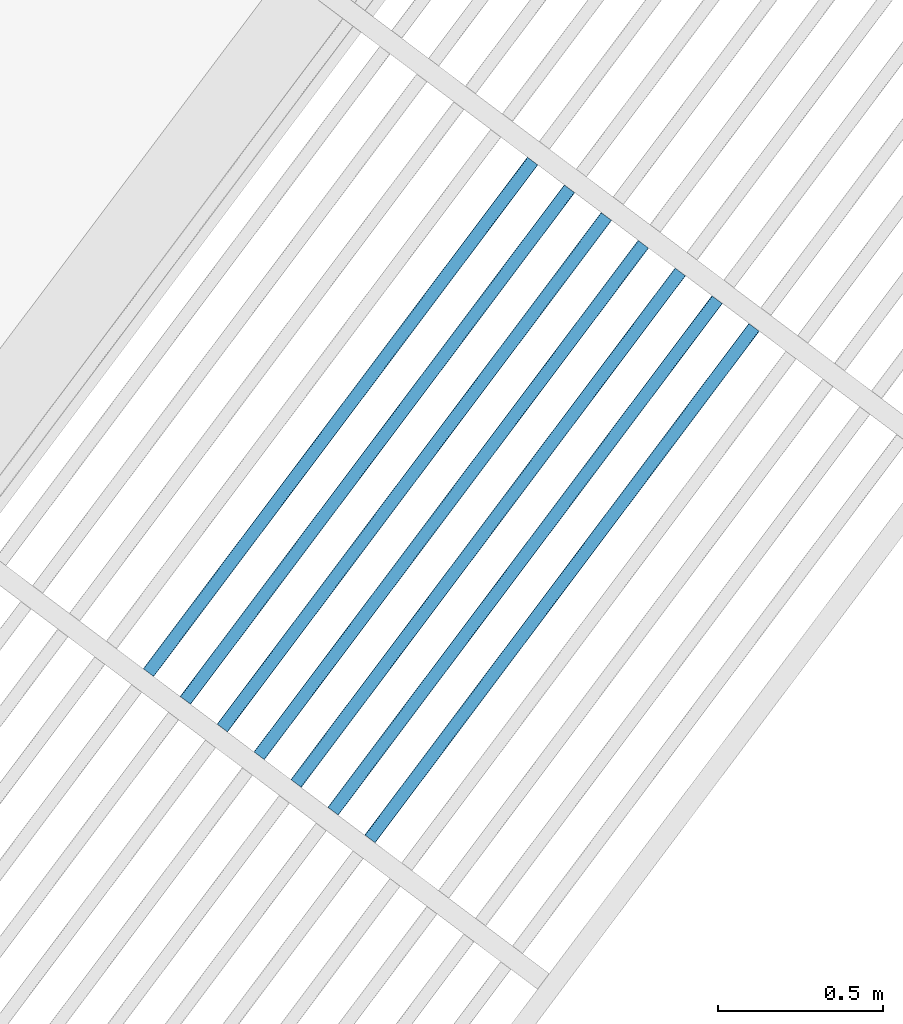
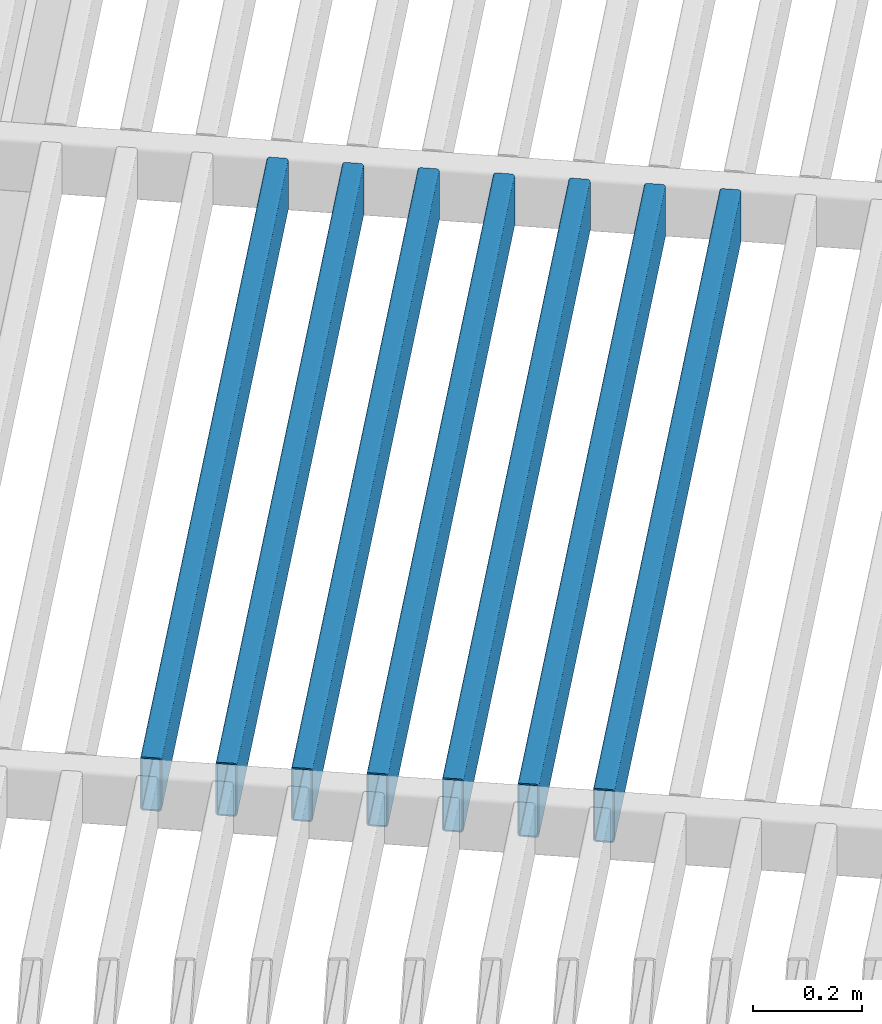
# One storey, part 66 of 95: 7 beams.
"""IFC2X3 building model written with IfcOpenShell, lengths in metres."""

from ifc_helpers import new_model, entity, si_unit, converted_unit, derived_unit, direction, frame, frame_2d, origin, place, context, subcontext, project, spatial, polyline, circle_curve, parameter, trimmed, segment, composite_curve, outline, extrude, material, type_object, element, save


model = new_model("IFC2X3")

# Units and contexts
model_context = context("Model", 3, precision=1e-05, world=origin(), true_north=direction((6.123031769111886e-17, 1.0)))
body_context = subcontext(model_context, "Body", "Model", "MODEL_VIEW")
ifc_project = project(units=[si_unit("LENGTHUNIT", "METRE"), si_unit("AREAUNIT", "SQUARE_METRE"), si_unit("VOLUMEUNIT", "CUBIC_METRE"), converted_unit("PLANEANGLEUNIT", "DEGREE", entity("IfcRatioMeasure", 0.017453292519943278), si_unit("PLANEANGLEUNIT", "RADIAN"), dimensions=[0, 0, 0, 0, 0, 0, 0]), si_unit("MASSUNIT", "GRAM", prefix="KILO"), derived_unit("MASSDENSITYUNIT", [(si_unit("MASSUNIT", "GRAM", prefix="KILO"), 1), (si_unit("LENGTHUNIT", "METRE"), -3)]), derived_unit("IONCONCENTRATIONUNIT", [(si_unit("MASSUNIT", "GRAM", prefix="KILO"), 1), (si_unit("LENGTHUNIT", "METRE"), -3)]), derived_unit("MOMENTOFINERTIAUNIT", [(si_unit("LENGTHUNIT", "METRE"), 4)]), si_unit("TIMEUNIT", "SECOND"), si_unit("FREQUENCYUNIT", "HERTZ"), si_unit("THERMODYNAMICTEMPERATUREUNIT", "DEGREE_CELSIUS"), derived_unit("THERMALTRANSMITTANCEUNIT", [(si_unit("MASSUNIT", "GRAM", prefix="KILO"), 1), (si_unit("THERMODYNAMICTEMPERATUREUNIT", "KELVIN"), -1), (si_unit("TIMEUNIT", "SECOND"), -3)]), derived_unit("THERMALCONDUCTANCEUNIT", [(si_unit("MASSUNIT", "GRAM", prefix="KILO"), 1), (si_unit("THERMODYNAMICTEMPERATUREUNIT", "KELVIN"), -1), (si_unit("TIMEUNIT", "SECOND"), -3), (si_unit("LENGTHUNIT", "METRE"), 1)]), derived_unit("VOLUMETRICFLOWRATEUNIT", [(si_unit("LENGTHUNIT", "METRE"), 3), (si_unit("TIMEUNIT", "SECOND"), -1)]), derived_unit("MASSFLOWRATEUNIT", [(si_unit("MASSUNIT", "GRAM", prefix="KILO"), 1), (si_unit("TIMEUNIT", "SECOND"), -1)]), derived_unit("ROTATIONALFREQUENCYUNIT", [(si_unit("TIMEUNIT", "SECOND"), -1)]), si_unit("ELECTRICCURRENTUNIT", "AMPERE"), si_unit("ELECTRICVOLTAGEUNIT", "VOLT"), si_unit("POWERUNIT", "WATT"), si_unit("FORCEUNIT", "NEWTON", prefix="KILO"), si_unit("ILLUMINANCEUNIT", "LUX"), si_unit("LUMINOUSFLUXUNIT", "LUMEN"), si_unit("LUMINOUSINTENSITYUNIT", "CANDELA"), derived_unit("USERDEFINED", [(si_unit("MASSUNIT", "GRAM", prefix="KILO"), -1), (si_unit("LENGTHUNIT", "METRE"), -2), (si_unit("TIMEUNIT", "SECOND"), 3), (si_unit("LUMINOUSFLUXUNIT", "LUMEN"), 1)]), derived_unit("USERDEFINED", [(si_unit("MASSUNIT", "GRAM", prefix="KILO"), 1), (si_unit("TIMEUNIT", "SECOND"), -3), (si_unit("LENGTHUNIT", "METRE"), 3), (si_unit("ELECTRICCURRENTUNIT", "AMPERE"), -2)]), derived_unit("SOUNDPOWERUNIT", [(si_unit("MASSUNIT", "GRAM", prefix="KILO"), 1), (si_unit("TIMEUNIT", "SECOND"), -3), (si_unit("LENGTHUNIT", "METRE"), 2)]), derived_unit("SOUNDPRESSUREUNIT", [(si_unit("MASSUNIT", "GRAM", prefix="KILO"), 1), (si_unit("LENGTHUNIT", "METRE"), -1), (si_unit("TIMEUNIT", "SECOND"), -2)]), derived_unit("LINEARVELOCITYUNIT", [(si_unit("LENGTHUNIT", "METRE"), 1), (si_unit("TIMEUNIT", "SECOND"), -1)]), si_unit("PRESSUREUNIT", "PASCAL"), derived_unit("USERDEFINED", [(si_unit("MASSUNIT", "GRAM", prefix="KILO"), 1), (si_unit("LENGTHUNIT", "METRE"), -2), (si_unit("TIMEUNIT", "SECOND"), -2)]), derived_unit("LINEARFORCEUNIT", [(si_unit("MASSUNIT", "GRAM", prefix="KILO"), 1), (si_unit("TIMEUNIT", "SECOND"), -2)]), derived_unit("PLANARFORCEUNIT", [(si_unit("MASSUNIT", "GRAM", prefix="KILO"), 1), (si_unit("LENGTHUNIT", "METRE"), -1), (si_unit("TIMEUNIT", "SECOND"), -2)]), derived_unit("SPECIFICHEATCAPACITYUNIT", [(si_unit("THERMODYNAMICTEMPERATUREUNIT", "KELVIN"), -1), (si_unit("LENGTHUNIT", "METRE"), 2), (si_unit("TIMEUNIT", "SECOND"), -2)]), derived_unit("HEATINGVALUEUNIT", [(si_unit("LENGTHUNIT", "METRE"), 2), (si_unit("TIMEUNIT", "SECOND"), -2)]), derived_unit("VAPORPERMEABILITYUNIT", [(si_unit("LENGTHUNIT", "METRE"), -1), (si_unit("TIMEUNIT", "SECOND"), 1)]), derived_unit("DYNAMICVISCOSITYUNIT", [(si_unit("MASSUNIT", "GRAM", prefix="KILO"), 1), (si_unit("TIMEUNIT", "SECOND"), -1), (si_unit("LENGTHUNIT", "METRE"), -1)]), derived_unit("THERMALEXPANSIONCOEFFICIENTUNIT", [(si_unit("THERMODYNAMICTEMPERATUREUNIT", "KELVIN"), -1)]), derived_unit("MODULUSOFELASTICITYUNIT", [(si_unit("MASSUNIT", "GRAM", prefix="KILO"), 1), (si_unit("LENGTHUNIT", "METRE"), -1), (si_unit("TIMEUNIT", "SECOND"), -2)]), derived_unit("ISOTHERMALMOISTURECAPACITYUNIT", [(si_unit("LENGTHUNIT", "METRE"), 3), (si_unit("MASSUNIT", "GRAM", prefix="KILO"), -1)]), derived_unit("MOISTUREDIFFUSIVITYUNIT", [(si_unit("TIMEUNIT", "SECOND"), -1), (si_unit("LENGTHUNIT", "METRE"), 2)])], contexts=[model_context])

# Site, building, storey
site_placement = place(None, origin())
site = spatial("IfcSite", under=ifc_project, at=site_placement, Name="Default", CompositionType="ELEMENT")
building_placement = place(site_placement, frame((0.0, 0.0, 235.0), z_axis=(0.0, 0.0, 1.0), x_axis=(-0.7996477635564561, 0.6004693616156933, 0.0)))
building = spatial("IfcBuilding", under=site, at=building_placement, CompositionType="ELEMENT")
storey_placement = place(building_placement, frame((0.0, 0.0, 3.400000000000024)))
storey = spatial("IfcBuildingStorey", under=building, at=storey_placement, Name="PC- Coberta STR", CompositionType="ELEMENT", Elevation=3.400000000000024)

# Beams
ifc_material = material(Name="_Acer- STR")
beam_type = type_object("IfcBeamType", Name="STR- V- Acer- RHS- Rectangular- T1:120x40RHS -", PredefinedType="NOTDEFINED")
beam_1_placement = place(storey_placement, frame((40.37355240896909, -32.38519175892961, 0.4984047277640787), z_axis=(0.0, 0.0, 1.0), x_axis=(0.0, -1.0, 0.0)))
element("IfcBeam", 1, at=beam_1_placement, inside=storey, type_object=beam_type, material=ifc_material, Name="STR- V- Acer- RHS- Rectangular- T1:120x40RHS -", ObjectType="STR- V- Acer- RHS- Rectangular- T1:120x40RHS -", context=body_context, shape_type="SweptSolid", body=[
    extrude(outline(composite_curve([segment(trimmed(circle_curve(frame_2d((-0.01399999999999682, -0.053999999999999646), x_axis=(1.0, 0.0)), 0.006), [parameter(180.0000000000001)], [parameter(269.99999999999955)], True, "PARAMETER"), True, "CONTINUOUS"), segment(polyline([(-0.01399999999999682, -0.0599999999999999), (0.013999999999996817, -0.0599999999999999)]), True, "CONTINUOUS"), segment(trimmed(circle_curve(frame_2d((0.014000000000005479, -0.053999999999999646), x_axis=(1.0, 0.0)), 0.006), [parameter(269.99999999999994)], [parameter(1.0177774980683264e-13)], True, "PARAMETER"), True, "CONTINUOUS"), segment(polyline([(0.020000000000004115, -0.053999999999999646), (0.020000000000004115, 0.05400000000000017)]), True, "CONTINUOUS"), segment(trimmed(circle_curve(frame_2d((0.014000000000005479, 0.05400000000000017), x_axis=(1.0, 0.0)), 0.006), [parameter(359.9999999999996)], [parameter(89.99999999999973)], True, "PARAMETER"), True, "CONTINUOUS"), segment(polyline([(0.013999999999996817, 0.059999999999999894), (-0.01399999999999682, 0.059999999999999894)]), True, "CONTINUOUS"), segment(trimmed(circle_curve(frame_2d((-0.01399999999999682, 0.05400000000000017), x_axis=(1.0, 0.0)), 0.006), [parameter(90.00000000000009)], [parameter(180.00000000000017)], True, "PARAMETER"), True, "CONTINUOUS"), segment(polyline([(-0.019999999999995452, 0.05400000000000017), (-0.019999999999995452, -0.05400000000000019)]), True, "CONTINUOUS")], self_intersect=False), holes=[composite_curve([segment(polyline([(0.013999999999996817, -0.05700000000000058), (-0.01399999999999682, -0.05700000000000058)]), True, "CONTINUOUS"), segment(trimmed(circle_curve(frame_2d((-0.01399999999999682, -0.05400000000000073), x_axis=(1.0, 0.0)), 0.003), [parameter(179.99999999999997)], [parameter(269.9999999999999)], True, "PARAMETER"), False, "CONTINUOUS"), segment(polyline([(-0.016999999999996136, -0.05400000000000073), (-0.016999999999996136, 0.05399999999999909)]), True, "CONTINUOUS"), segment(trimmed(circle_curve(frame_2d((-0.01399999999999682, 0.05399999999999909), x_axis=(1.0, 0.0)), 0.003), [parameter(90.00000000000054)], [parameter(180.0000000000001)], True, "PARAMETER"), False, "CONTINUOUS"), segment(polyline([(-0.01399999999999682, 0.056999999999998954), (0.013999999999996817, 0.056999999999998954)]), True, "CONTINUOUS"), segment(trimmed(circle_curve(frame_2d((0.014000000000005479, 0.05399999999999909), x_axis=(1.0, 0.0)), 0.003), [parameter(0.0)], [parameter(90.00000000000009)], True, "PARAMETER"), False, "CONTINUOUS"), segment(polyline([(0.017000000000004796, 0.05399999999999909), (0.017000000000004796, -0.05400000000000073)]), True, "CONTINUOUS"), segment(trimmed(circle_curve(frame_2d((0.014000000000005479, -0.05400000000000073), x_axis=(1.0, 0.0)), 0.003), [parameter(270.00000000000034)], [parameter(3.053332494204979e-13)], True, "PARAMETER"), False, "CONTINUOUS")], self_intersect=False)]), frame((-1.9399999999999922, 0.02159527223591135, 0.06159527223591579), z_axis=(1.0, 0.0, 0.0), x_axis=(0.0, -1.0, 0.0)), (0.0, 0.0, 1.0), 1.9399999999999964),
])
beam_2_placement = place(storey_placement, frame((40.23355240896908, -32.38519175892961, 0.4984047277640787), z_axis=(0.0, 0.0, 1.0), x_axis=(0.0, -1.0, 0.0)))
element("IfcBeam", 2, at=beam_2_placement, inside=storey, type_object=beam_type, material=ifc_material, Name="STR- V- Acer- RHS- Rectangular- T1:120x40RHS -", ObjectType="STR- V- Acer- RHS- Rectangular- T1:120x40RHS -", context=body_context, shape_type="SweptSolid", body=[
    extrude(outline(composite_curve([segment(trimmed(circle_curve(frame_2d((-0.01400000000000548, -0.053999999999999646), x_axis=(1.0, 0.0)), 0.006), [parameter(180.0000000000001)], [parameter(269.99999999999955)], True, "PARAMETER"), True, "CONTINUOUS"), segment(polyline([(-0.01400000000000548, -0.0599999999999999), (0.013999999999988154, -0.0599999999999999)]), True, "CONTINUOUS"), segment(trimmed(circle_curve(frame_2d((0.013999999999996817, -0.053999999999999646), x_axis=(1.0, 0.0)), 0.006), [parameter(269.99999999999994)], [parameter(1.0177774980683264e-13)], True, "PARAMETER"), True, "CONTINUOUS"), segment(polyline([(0.019999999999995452, -0.053999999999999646), (0.019999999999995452, 0.05400000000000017)]), True, "CONTINUOUS"), segment(trimmed(circle_curve(frame_2d((0.013999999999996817, 0.05400000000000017), x_axis=(1.0, 0.0)), 0.006), [parameter(359.9999999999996)], [parameter(89.99999999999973)], True, "PARAMETER"), True, "CONTINUOUS"), segment(polyline([(0.013999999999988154, 0.059999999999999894), (-0.01400000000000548, 0.059999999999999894)]), True, "CONTINUOUS"), segment(trimmed(circle_curve(frame_2d((-0.01400000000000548, 0.05400000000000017), x_axis=(1.0, 0.0)), 0.006), [parameter(90.00000000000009)], [parameter(180.00000000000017)], True, "PARAMETER"), True, "CONTINUOUS"), segment(polyline([(-0.02000000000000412, 0.05400000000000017), (-0.02000000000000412, -0.05400000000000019)]), True, "CONTINUOUS")], self_intersect=False), holes=[composite_curve([segment(polyline([(0.013999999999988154, -0.05700000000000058), (-0.01400000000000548, -0.05700000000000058)]), True, "CONTINUOUS"), segment(trimmed(circle_curve(frame_2d((-0.01400000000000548, -0.05400000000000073), x_axis=(1.0, 0.0)), 0.003), [parameter(179.99999999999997)], [parameter(269.9999999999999)], True, "PARAMETER"), False, "CONTINUOUS"), segment(polyline([(-0.017000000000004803, -0.05400000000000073), (-0.017000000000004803, 0.05399999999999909)]), True, "CONTINUOUS"), segment(trimmed(circle_curve(frame_2d((-0.01400000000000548, 0.05399999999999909), x_axis=(1.0, 0.0)), 0.003), [parameter(90.00000000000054)], [parameter(180.0000000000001)], True, "PARAMETER"), False, "CONTINUOUS"), segment(polyline([(-0.01400000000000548, 0.056999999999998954), (0.013999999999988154, 0.056999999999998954)]), True, "CONTINUOUS"), segment(trimmed(circle_curve(frame_2d((0.013999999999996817, 0.05399999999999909), x_axis=(1.0, 0.0)), 0.003), [parameter(0.0)], [parameter(90.00000000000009)], True, "PARAMETER"), False, "CONTINUOUS"), segment(polyline([(0.016999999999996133, 0.05399999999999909), (0.016999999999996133, -0.05400000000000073)]), True, "CONTINUOUS"), segment(trimmed(circle_curve(frame_2d((0.013999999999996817, -0.05400000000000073), x_axis=(1.0, 0.0)), 0.003), [parameter(270.00000000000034)], [parameter(3.053332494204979e-13)], True, "PARAMETER"), False, "CONTINUOUS")], self_intersect=False)]), frame((-1.9399999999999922, 0.02159527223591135, 0.06159527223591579), z_axis=(1.0, 0.0, 0.0), x_axis=(0.0, -1.0, 0.0)), (0.0, 0.0, 1.0), 1.9399999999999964),
])
beam_3_placement = place(storey_placement, frame((40.09355240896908, -32.38519175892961, 0.4984047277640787), z_axis=(0.0, 0.0, 1.0), x_axis=(0.0, -1.0, 0.0)))
element("IfcBeam", 3, at=beam_3_placement, inside=storey, type_object=beam_type, material=ifc_material, Name="STR- V- Acer- RHS- Rectangular- T1:120x40RHS -", ObjectType="STR- V- Acer- RHS- Rectangular- T1:120x40RHS -", context=body_context, shape_type="SweptSolid", body=[
    extrude(outline(composite_curve([segment(trimmed(circle_curve(frame_2d((-0.01400000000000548, -0.053999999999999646), x_axis=(1.0, 0.0)), 0.006), [parameter(180.0000000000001)], [parameter(269.99999999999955)], True, "PARAMETER"), True, "CONTINUOUS"), segment(polyline([(-0.01400000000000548, -0.0599999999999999), (0.013999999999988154, -0.0599999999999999)]), True, "CONTINUOUS"), segment(trimmed(circle_curve(frame_2d((0.013999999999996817, -0.053999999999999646), x_axis=(1.0, 0.0)), 0.006), [parameter(269.99999999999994)], [parameter(1.0177774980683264e-13)], True, "PARAMETER"), True, "CONTINUOUS"), segment(polyline([(0.019999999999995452, -0.053999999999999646), (0.019999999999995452, 0.05400000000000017)]), True, "CONTINUOUS"), segment(trimmed(circle_curve(frame_2d((0.013999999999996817, 0.05400000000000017), x_axis=(1.0, 0.0)), 0.006), [parameter(359.9999999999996)], [parameter(89.99999999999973)], True, "PARAMETER"), True, "CONTINUOUS"), segment(polyline([(0.013999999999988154, 0.059999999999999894), (-0.01400000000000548, 0.059999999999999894)]), True, "CONTINUOUS"), segment(trimmed(circle_curve(frame_2d((-0.01400000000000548, 0.05400000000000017), x_axis=(1.0, 0.0)), 0.006), [parameter(90.00000000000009)], [parameter(180.00000000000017)], True, "PARAMETER"), True, "CONTINUOUS"), segment(polyline([(-0.02000000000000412, 0.05400000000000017), (-0.02000000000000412, -0.05400000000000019)]), True, "CONTINUOUS")], self_intersect=False), holes=[composite_curve([segment(polyline([(0.013999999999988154, -0.05700000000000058), (-0.01400000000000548, -0.05700000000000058)]), True, "CONTINUOUS"), segment(trimmed(circle_curve(frame_2d((-0.01400000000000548, -0.05400000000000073), x_axis=(1.0, 0.0)), 0.003), [parameter(179.99999999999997)], [parameter(269.9999999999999)], True, "PARAMETER"), False, "CONTINUOUS"), segment(polyline([(-0.017000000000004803, -0.05400000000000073), (-0.017000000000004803, 0.05399999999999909)]), True, "CONTINUOUS"), segment(trimmed(circle_curve(frame_2d((-0.01400000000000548, 0.05399999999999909), x_axis=(1.0, 0.0)), 0.003), [parameter(90.00000000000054)], [parameter(180.0000000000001)], True, "PARAMETER"), False, "CONTINUOUS"), segment(polyline([(-0.01400000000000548, 0.056999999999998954), (0.013999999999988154, 0.056999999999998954)]), True, "CONTINUOUS"), segment(trimmed(circle_curve(frame_2d((0.013999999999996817, 0.05399999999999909), x_axis=(1.0, 0.0)), 0.003), [parameter(0.0)], [parameter(90.00000000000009)], True, "PARAMETER"), False, "CONTINUOUS"), segment(polyline([(0.016999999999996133, 0.05399999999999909), (0.016999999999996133, -0.05400000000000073)]), True, "CONTINUOUS"), segment(trimmed(circle_curve(frame_2d((0.013999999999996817, -0.05400000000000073), x_axis=(1.0, 0.0)), 0.003), [parameter(270.00000000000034)], [parameter(3.053332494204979e-13)], True, "PARAMETER"), False, "CONTINUOUS")], self_intersect=False)]), frame((-1.9399999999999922, 0.02159527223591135, 0.06159527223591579), z_axis=(1.0, 0.0, 0.0), x_axis=(0.0, -1.0, 0.0)), (0.0, 0.0, 1.0), 1.9399999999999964),
])
beam_4_placement = place(storey_placement, frame((39.95355240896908, -32.38519175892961, 0.4984047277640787), z_axis=(0.0, 0.0, 1.0), x_axis=(0.0, -1.0, 0.0)))
element("IfcBeam", 4, at=beam_4_placement, inside=storey, type_object=beam_type, material=ifc_material, Name="STR- V- Acer- RHS- Rectangular- T1:120x40RHS -", ObjectType="STR- V- Acer- RHS- Rectangular- T1:120x40RHS -", context=body_context, shape_type="SweptSolid", body=[
    extrude(outline(composite_curve([segment(trimmed(circle_curve(frame_2d((-0.01400000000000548, -0.053999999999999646), x_axis=(1.0, 0.0)), 0.006), [parameter(180.0000000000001)], [parameter(269.99999999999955)], True, "PARAMETER"), True, "CONTINUOUS"), segment(polyline([(-0.01400000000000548, -0.0599999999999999), (0.013999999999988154, -0.0599999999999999)]), True, "CONTINUOUS"), segment(trimmed(circle_curve(frame_2d((0.013999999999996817, -0.053999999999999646), x_axis=(1.0, 0.0)), 0.006), [parameter(269.99999999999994)], [parameter(1.0177774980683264e-13)], True, "PARAMETER"), True, "CONTINUOUS"), segment(polyline([(0.019999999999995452, -0.053999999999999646), (0.019999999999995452, 0.05400000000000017)]), True, "CONTINUOUS"), segment(trimmed(circle_curve(frame_2d((0.013999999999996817, 0.05400000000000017), x_axis=(1.0, 0.0)), 0.006), [parameter(359.9999999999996)], [parameter(89.99999999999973)], True, "PARAMETER"), True, "CONTINUOUS"), segment(polyline([(0.013999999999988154, 0.059999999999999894), (-0.01400000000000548, 0.059999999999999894)]), True, "CONTINUOUS"), segment(trimmed(circle_curve(frame_2d((-0.01400000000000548, 0.05400000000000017), x_axis=(1.0, 0.0)), 0.006), [parameter(90.00000000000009)], [parameter(180.00000000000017)], True, "PARAMETER"), True, "CONTINUOUS"), segment(polyline([(-0.02000000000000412, 0.05400000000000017), (-0.02000000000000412, -0.05400000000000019)]), True, "CONTINUOUS")], self_intersect=False), holes=[composite_curve([segment(polyline([(0.013999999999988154, -0.05700000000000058), (-0.01400000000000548, -0.05700000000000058)]), True, "CONTINUOUS"), segment(trimmed(circle_curve(frame_2d((-0.01400000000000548, -0.05400000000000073), x_axis=(1.0, 0.0)), 0.003), [parameter(179.99999999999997)], [parameter(269.9999999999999)], True, "PARAMETER"), False, "CONTINUOUS"), segment(polyline([(-0.017000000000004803, -0.05400000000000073), (-0.017000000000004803, 0.05399999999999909)]), True, "CONTINUOUS"), segment(trimmed(circle_curve(frame_2d((-0.01400000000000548, 0.05399999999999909), x_axis=(1.0, 0.0)), 0.003), [parameter(90.00000000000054)], [parameter(180.0000000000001)], True, "PARAMETER"), False, "CONTINUOUS"), segment(polyline([(-0.01400000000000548, 0.056999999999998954), (0.013999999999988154, 0.056999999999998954)]), True, "CONTINUOUS"), segment(trimmed(circle_curve(frame_2d((0.013999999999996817, 0.05399999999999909), x_axis=(1.0, 0.0)), 0.003), [parameter(0.0)], [parameter(90.00000000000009)], True, "PARAMETER"), False, "CONTINUOUS"), segment(polyline([(0.016999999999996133, 0.05399999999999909), (0.016999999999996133, -0.05400000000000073)]), True, "CONTINUOUS"), segment(trimmed(circle_curve(frame_2d((0.013999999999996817, -0.05400000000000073), x_axis=(1.0, 0.0)), 0.003), [parameter(270.00000000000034)], [parameter(3.053332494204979e-13)], True, "PARAMETER"), False, "CONTINUOUS")], self_intersect=False)]), frame((-1.9399999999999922, 0.02159527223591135, 0.06159527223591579), z_axis=(1.0, 0.0, 0.0), x_axis=(0.0, -1.0, 0.0)), (0.0, 0.0, 1.0), 1.9399999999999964),
])
beam_5_placement = place(storey_placement, frame((39.813552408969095, -32.38519175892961, 0.4984047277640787), z_axis=(0.0, 0.0, 1.0), x_axis=(0.0, -1.0, 0.0)))
element("IfcBeam", 5, at=beam_5_placement, inside=storey, type_object=beam_type, material=ifc_material, Name="STR- V- Acer- RHS- Rectangular- T1:120x40RHS -", ObjectType="STR- V- Acer- RHS- Rectangular- T1:120x40RHS -", context=body_context, shape_type="SweptSolid", body=[
    extrude(outline(composite_curve([segment(trimmed(circle_curve(frame_2d((-0.01400000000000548, -0.053999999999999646), x_axis=(1.0, 0.0)), 0.006), [parameter(180.0000000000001)], [parameter(269.99999999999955)], True, "PARAMETER"), True, "CONTINUOUS"), segment(polyline([(-0.01400000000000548, -0.0599999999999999), (0.013999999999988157, -0.0599999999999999)]), True, "CONTINUOUS"), segment(trimmed(circle_curve(frame_2d((0.013999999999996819, -0.053999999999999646), x_axis=(1.0, 0.0)), 0.006), [parameter(269.99999999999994)], [parameter(1.0177774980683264e-13)], True, "PARAMETER"), True, "CONTINUOUS"), segment(polyline([(0.019999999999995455, -0.053999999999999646), (0.019999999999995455, 0.05400000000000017)]), True, "CONTINUOUS"), segment(trimmed(circle_curve(frame_2d((0.013999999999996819, 0.05400000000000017), x_axis=(1.0, 0.0)), 0.006), [parameter(359.9999999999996)], [parameter(89.99999999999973)], True, "PARAMETER"), True, "CONTINUOUS"), segment(polyline([(0.013999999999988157, 0.059999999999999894), (-0.01400000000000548, 0.059999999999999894)]), True, "CONTINUOUS"), segment(trimmed(circle_curve(frame_2d((-0.01400000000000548, 0.05400000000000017), x_axis=(1.0, 0.0)), 0.006), [parameter(90.00000000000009)], [parameter(180.00000000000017)], True, "PARAMETER"), True, "CONTINUOUS"), segment(polyline([(-0.02000000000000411, 0.05400000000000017), (-0.02000000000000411, -0.05400000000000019)]), True, "CONTINUOUS")], self_intersect=False), holes=[composite_curve([segment(polyline([(0.013999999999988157, -0.05700000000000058), (-0.01400000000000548, -0.05700000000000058)]), True, "CONTINUOUS"), segment(trimmed(circle_curve(frame_2d((-0.01400000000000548, -0.05400000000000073), x_axis=(1.0, 0.0)), 0.003), [parameter(179.99999999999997)], [parameter(269.9999999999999)], True, "PARAMETER"), False, "CONTINUOUS"), segment(polyline([(-0.017000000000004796, -0.05400000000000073), (-0.017000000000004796, 0.05399999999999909)]), True, "CONTINUOUS"), segment(trimmed(circle_curve(frame_2d((-0.01400000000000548, 0.05399999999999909), x_axis=(1.0, 0.0)), 0.003), [parameter(90.00000000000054)], [parameter(180.0000000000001)], True, "PARAMETER"), False, "CONTINUOUS"), segment(polyline([(-0.01400000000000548, 0.056999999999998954), (0.013999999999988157, 0.056999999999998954)]), True, "CONTINUOUS"), segment(trimmed(circle_curve(frame_2d((0.013999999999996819, 0.05399999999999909), x_axis=(1.0, 0.0)), 0.003), [parameter(0.0)], [parameter(90.00000000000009)], True, "PARAMETER"), False, "CONTINUOUS"), segment(polyline([(0.016999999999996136, 0.05399999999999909), (0.016999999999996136, -0.05400000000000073)]), True, "CONTINUOUS"), segment(trimmed(circle_curve(frame_2d((0.013999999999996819, -0.05400000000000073), x_axis=(1.0, 0.0)), 0.003), [parameter(270.00000000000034)], [parameter(3.053332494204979e-13)], True, "PARAMETER"), False, "CONTINUOUS")], self_intersect=False)]), frame((-1.9399999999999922, 0.021595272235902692, 0.06159527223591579), z_axis=(1.0, 0.0, 0.0), x_axis=(0.0, -1.0, 0.0)), (0.0, 0.0, 1.0), 1.9399999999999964),
])
beam_6_placement = place(storey_placement, frame((39.67355240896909, -32.38519175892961, 0.4984047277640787), z_axis=(0.0, 0.0, 1.0), x_axis=(0.0, -1.0, 0.0)))
element("IfcBeam", 6, at=beam_6_placement, inside=storey, type_object=beam_type, material=ifc_material, Name="STR- V- Acer- RHS- Rectangular- T1:120x40RHS -", ObjectType="STR- V- Acer- RHS- Rectangular- T1:120x40RHS -", context=body_context, shape_type="SweptSolid", body=[
    extrude(outline(composite_curve([segment(trimmed(circle_curve(frame_2d((-0.01400000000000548, -0.053999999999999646), x_axis=(1.0, 0.0)), 0.006), [parameter(180.0000000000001)], [parameter(269.99999999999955)], True, "PARAMETER"), True, "CONTINUOUS"), segment(polyline([(-0.01400000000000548, -0.0599999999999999), (0.013999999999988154, -0.0599999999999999)]), True, "CONTINUOUS"), segment(trimmed(circle_curve(frame_2d((0.013999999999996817, -0.053999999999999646), x_axis=(1.0, 0.0)), 0.006), [parameter(269.99999999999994)], [parameter(1.0177774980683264e-13)], True, "PARAMETER"), True, "CONTINUOUS"), segment(polyline([(0.019999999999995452, -0.053999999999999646), (0.019999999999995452, 0.05400000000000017)]), True, "CONTINUOUS"), segment(trimmed(circle_curve(frame_2d((0.013999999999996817, 0.05400000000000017), x_axis=(1.0, 0.0)), 0.006), [parameter(359.9999999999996)], [parameter(89.99999999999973)], True, "PARAMETER"), True, "CONTINUOUS"), segment(polyline([(0.013999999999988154, 0.059999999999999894), (-0.01400000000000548, 0.059999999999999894)]), True, "CONTINUOUS"), segment(trimmed(circle_curve(frame_2d((-0.01400000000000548, 0.05400000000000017), x_axis=(1.0, 0.0)), 0.006), [parameter(90.00000000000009)], [parameter(180.00000000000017)], True, "PARAMETER"), True, "CONTINUOUS"), segment(polyline([(-0.02000000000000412, 0.05400000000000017), (-0.02000000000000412, -0.05400000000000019)]), True, "CONTINUOUS")], self_intersect=False), holes=[composite_curve([segment(polyline([(0.013999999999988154, -0.05700000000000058), (-0.01400000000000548, -0.05700000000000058)]), True, "CONTINUOUS"), segment(trimmed(circle_curve(frame_2d((-0.01400000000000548, -0.05400000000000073), x_axis=(1.0, 0.0)), 0.003), [parameter(179.99999999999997)], [parameter(269.9999999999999)], True, "PARAMETER"), False, "CONTINUOUS"), segment(polyline([(-0.017000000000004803, -0.05400000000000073), (-0.017000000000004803, 0.05399999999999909)]), True, "CONTINUOUS"), segment(trimmed(circle_curve(frame_2d((-0.01400000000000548, 0.05399999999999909), x_axis=(1.0, 0.0)), 0.003), [parameter(90.00000000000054)], [parameter(180.0000000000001)], True, "PARAMETER"), False, "CONTINUOUS"), segment(polyline([(-0.01400000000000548, 0.056999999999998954), (0.013999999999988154, 0.056999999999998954)]), True, "CONTINUOUS"), segment(trimmed(circle_curve(frame_2d((0.013999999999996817, 0.05399999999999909), x_axis=(1.0, 0.0)), 0.003), [parameter(0.0)], [parameter(90.00000000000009)], True, "PARAMETER"), False, "CONTINUOUS"), segment(polyline([(0.016999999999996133, 0.05399999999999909), (0.016999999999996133, -0.05400000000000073)]), True, "CONTINUOUS"), segment(trimmed(circle_curve(frame_2d((0.013999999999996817, -0.05400000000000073), x_axis=(1.0, 0.0)), 0.003), [parameter(270.00000000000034)], [parameter(3.053332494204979e-13)], True, "PARAMETER"), False, "CONTINUOUS")], self_intersect=False)]), frame((-1.9399999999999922, 0.02159527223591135, 0.06159527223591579), z_axis=(1.0, 0.0, 0.0), x_axis=(0.0, -1.0, 0.0)), (0.0, 0.0, 1.0), 1.9399999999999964),
])
beam_7_placement = place(storey_placement, frame((39.533552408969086, -32.38519175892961, 0.4984047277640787), z_axis=(0.0, 0.0, 1.0), x_axis=(0.0, -1.0, 0.0)))
element("IfcBeam", 7, at=beam_7_placement, inside=storey, type_object=beam_type, material=ifc_material, Name="STR- V- Acer- RHS- Rectangular- T1:120x40RHS -", ObjectType="STR- V- Acer- RHS- Rectangular- T1:120x40RHS -", context=body_context, shape_type="SweptSolid", body=[
    extrude(outline(composite_curve([segment(trimmed(circle_curve(frame_2d((-0.013999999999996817, -0.053999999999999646), x_axis=(1.0, 0.0)), 0.006), [parameter(180.0000000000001)], [parameter(269.99999999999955)], True, "PARAMETER"), True, "CONTINUOUS"), segment(polyline([(-0.013999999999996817, -0.0599999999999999), (0.013999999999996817, -0.0599999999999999)]), True, "CONTINUOUS"), segment(trimmed(circle_curve(frame_2d((0.01400000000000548, -0.053999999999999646), x_axis=(1.0, 0.0)), 0.006), [parameter(269.99999999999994)], [parameter(1.0177774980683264e-13)], True, "PARAMETER"), True, "CONTINUOUS"), segment(polyline([(0.020000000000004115, -0.053999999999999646), (0.020000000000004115, 0.05400000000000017)]), True, "CONTINUOUS"), segment(trimmed(circle_curve(frame_2d((0.01400000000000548, 0.05400000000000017), x_axis=(1.0, 0.0)), 0.006), [parameter(359.9999999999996)], [parameter(89.99999999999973)], True, "PARAMETER"), True, "CONTINUOUS"), segment(polyline([(0.013999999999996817, 0.059999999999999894), (-0.013999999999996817, 0.059999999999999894)]), True, "CONTINUOUS"), segment(trimmed(circle_curve(frame_2d((-0.013999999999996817, 0.05400000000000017), x_axis=(1.0, 0.0)), 0.006), [parameter(90.00000000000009)], [parameter(180.00000000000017)], True, "PARAMETER"), True, "CONTINUOUS"), segment(polyline([(-0.019999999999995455, 0.05400000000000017), (-0.019999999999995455, -0.05400000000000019)]), True, "CONTINUOUS")], self_intersect=False), holes=[composite_curve([segment(polyline([(0.013999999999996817, -0.05700000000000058), (-0.013999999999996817, -0.05700000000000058)]), True, "CONTINUOUS"), segment(trimmed(circle_curve(frame_2d((-0.013999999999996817, -0.05400000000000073), x_axis=(1.0, 0.0)), 0.003), [parameter(179.99999999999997)], [parameter(269.9999999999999)], True, "PARAMETER"), False, "CONTINUOUS"), segment(polyline([(-0.01699999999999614, -0.05400000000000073), (-0.01699999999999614, 0.05399999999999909)]), True, "CONTINUOUS"), segment(trimmed(circle_curve(frame_2d((-0.013999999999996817, 0.05399999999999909), x_axis=(1.0, 0.0)), 0.003), [parameter(90.00000000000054)], [parameter(180.0000000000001)], True, "PARAMETER"), False, "CONTINUOUS"), segment(polyline([(-0.013999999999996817, 0.056999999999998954), (0.013999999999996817, 0.056999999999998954)]), True, "CONTINUOUS"), segment(trimmed(circle_curve(frame_2d((0.01400000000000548, 0.05399999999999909), x_axis=(1.0, 0.0)), 0.003), [parameter(0.0)], [parameter(90.00000000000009)], True, "PARAMETER"), False, "CONTINUOUS"), segment(polyline([(0.017000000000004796, 0.05399999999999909), (0.017000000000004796, -0.05400000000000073)]), True, "CONTINUOUS"), segment(trimmed(circle_curve(frame_2d((0.01400000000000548, -0.05400000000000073), x_axis=(1.0, 0.0)), 0.003), [parameter(270.00000000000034)], [parameter(3.053332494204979e-13)], True, "PARAMETER"), False, "CONTINUOUS")], self_intersect=False)]), frame((-1.9399999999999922, 0.021595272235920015, 0.06159527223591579), z_axis=(1.0, 0.0, 0.0), x_axis=(0.0, -1.0, 0.0)), (0.0, 0.0, 1.0), 1.9399999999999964),
])

save(model, "model.ifc")
